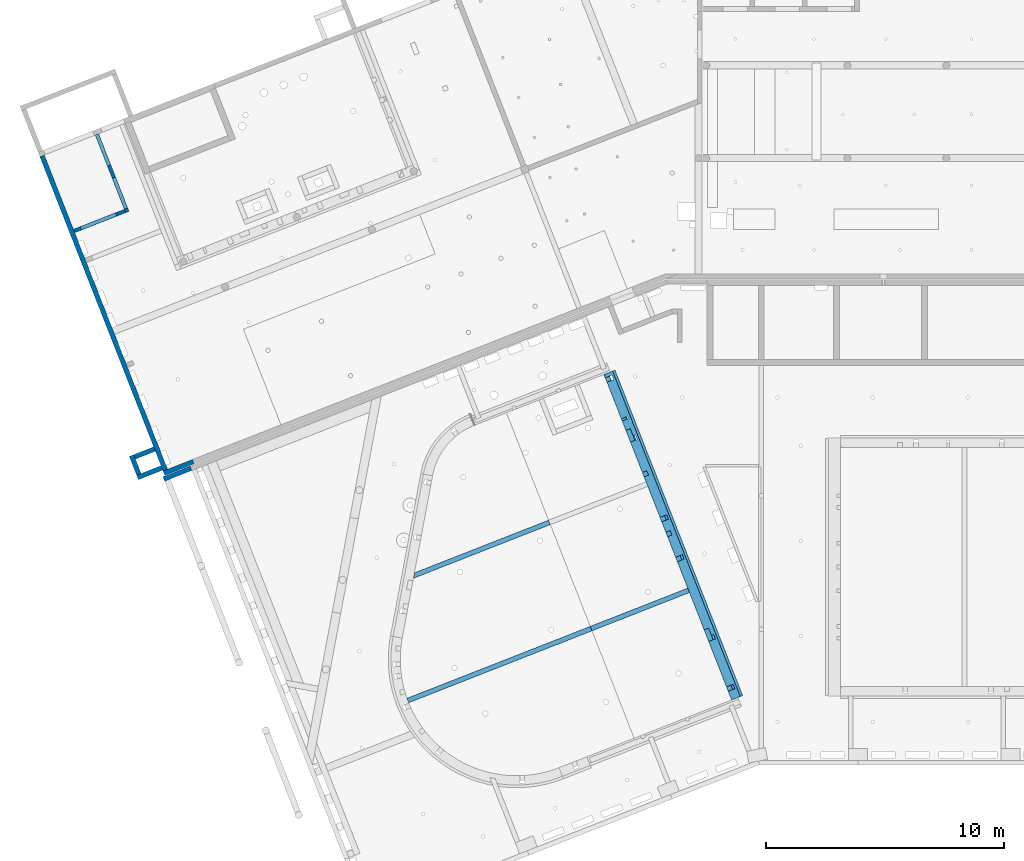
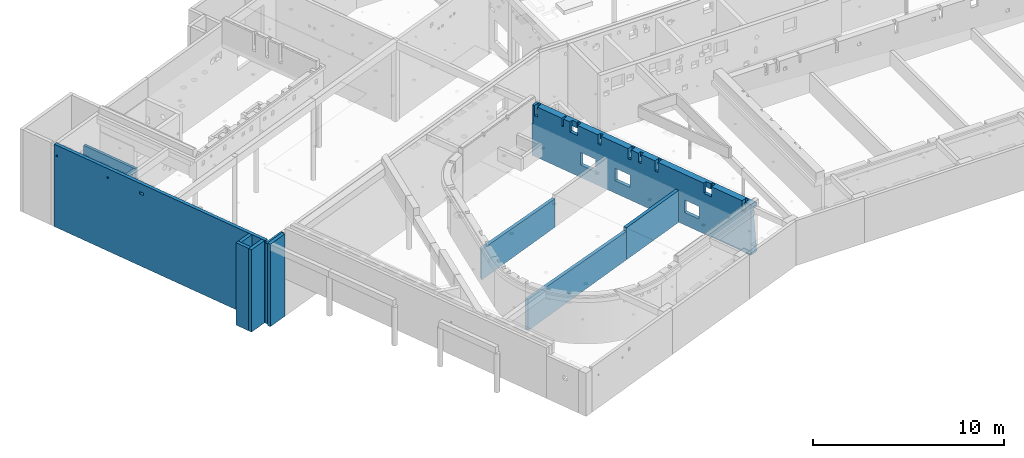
# One storey, part 16 of 28: 12 walls, 24 openings.
"""IFC2X3 building model written with IfcOpenShell, lengths in metres."""

import ifcopenshell
import ifcopenshell.guid

model = None  # the IFC model being written
_history = None  # IfcOwnerHistory: only IFC2X3 demands one
_inside = {}  # id of a spatial element -> (the spatial element, [elements in it])
_under = {}  # id of a project, library or spatial element -> (it, [spatial elements below it])
_declared = {}  # id of a project -> (the project, [libraries it declares])
_typed = {}  # id of a type object -> (the type object, [elements of that type])
_made_of = {}  # id of a material, layer set ... -> (it, [elements and type objects made of it])


def new_model(schema):
    """Start an empty IFC model of exactly this schema.

    Asked for "IFC4X3", IfcOpenShell would pick the latest addendum, in which some entities
    have other attributes; the version numbers below select the first issue.
    IFC2X3 requires an IfcOwnerHistory on every rooted entity: one is made here for all.
    """
    global model, _history
    if schema == "IFC4X3":
        model = ifcopenshell.file(schema_version=(4, 3, 0, 0))
    else:
        model = ifcopenshell.file(schema=schema)
    _inside.clear()
    _under.clear()
    _declared.clear()
    _typed.clear()
    _made_of.clear()
    _history = None
    if model.schema == "IFC2X3":
        org = make("IfcOrganization", Name="unknown")
        user = make(
            "IfcPersonAndOrganization",
            ThePerson=make("IfcPerson", FamilyName="unknown"),
            TheOrganization=org,
        )
        app = make(
            "IfcApplication",
            ApplicationDeveloper=org,
            Version="unknown",
            ApplicationFullName="unknown",
            ApplicationIdentifier="unknown",
        )
        _history = make(
            "IfcOwnerHistory",
            OwningUser=user,
            OwningApplication=app,
            ChangeAction="ADDED",
            CreationDate=0,
        )
    return model


def make(cls, **values):
    """One entity of the class cls with the attributes given. An attribute that is None is left unset."""
    return model.create_entity(
        cls, **{name: value for name, value in values.items() if value is not None}
    )


def entity(cls, *values):
    """Any entity or typed value of the class cls, its attributes in the order of the schema. None: left unset."""
    e = model.create_entity(cls)
    for i, value in enumerate(values):
        if value is not None:
            e[i] = value
    return e


def rooted(cls, **values):
    """An entity with a GlobalId (a new one), such as an element, a storey or a relation."""
    return make(cls, GlobalId=ifcopenshell.guid.new(), OwnerHistory=_history, **values)


def si_unit(unit_type, name, prefix=None):
    """IfcSIUnit, for example si_unit("LENGTHUNIT", "METRE", prefix="MILLI")."""
    return make("IfcSIUnit", UnitType=unit_type, Prefix=prefix, Name=name)


def converted_unit(unit_type, name, factor, base, dimensions=None, offset=None):
    """IfcConversionBasedUnit, such as the inch: factor (a typed value) times the base unit."""
    return make(
        "IfcConversionBasedUnit"
        if offset is None
        else "IfcConversionBasedUnitWithOffset",
        ConversionOffset=offset,
        Dimensions=None
        if dimensions is None
        else entity("IfcDimensionalExponents", *dimensions),
        UnitType=unit_type,
        Name=name,
        ConversionFactor=make(
            "IfcMeasureWithUnit", ValueComponent=factor, UnitComponent=base
        ),
    )


def assignment(units):
    """IfcUnitAssignment: the units of a project."""
    return None if units is None else make("IfcUnitAssignment", Units=units)


def point(xyz):
    """IfcCartesianPoint."""
    return None if xyz is None else make("IfcCartesianPoint", Coordinates=xyz)


def direction(xyz):
    """IfcDirection."""
    return None if xyz is None else make("IfcDirection", DirectionRatios=xyz)


def frame(location, z_axis=None, x_axis=None):
    """IfcAxis2Placement3D, a coordinate frame: its origin and axes. An axis left out is left unset."""
    return make(
        "IfcAxis2Placement3D",
        Location=point(location),
        Axis=direction(z_axis),
        RefDirection=direction(x_axis),
    )


def frame_2d(location, x_axis=None):
    """IfcAxis2Placement2D, a coordinate frame in the plane: its origin and x axis."""
    return make(
        "IfcAxis2Placement2D", Location=point(location), RefDirection=direction(x_axis)
    )


def origin():
    """The frame at (0, 0, 0) with its axes left unset."""
    return frame((0.0, 0.0, 0.0))


def origin_with_axes():
    """The frame at (0, 0, 0) with the z axis (0, 0, 1) and the x axis (1, 0, 0) written out."""
    return frame((0.0, 0.0, 0.0), z_axis=(0.0, 0.0, 1.0), x_axis=(1.0, 0.0, 0.0))


def place(relative_to, where):
    """IfcLocalPlacement: puts the frame where relative to a parent placement (None: the world)."""
    return make(
        "IfcLocalPlacement", PlacementRelTo=relative_to, RelativePlacement=where
    )


def context(
    kind, dimensions, precision=None, world=None, true_north=None, identifier=None
):
    """IfcGeometricRepresentationContext, for example the 3D "Model" context."""
    return make(
        "IfcGeometricRepresentationContext",
        ContextIdentifier=identifier,
        ContextType=kind,
        CoordinateSpaceDimension=dimensions,
        Precision=precision,
        WorldCoordinateSystem=world,
        TrueNorth=true_north,
    )


def subcontext(parent, identifier, kind, view, scale=None):
    """IfcGeometricRepresentationSubContext, for example "Body" below "Model"."""
    return make(
        "IfcGeometricRepresentationSubContext",
        ContextIdentifier=identifier,
        ContextType=kind,
        ParentContext=parent,
        TargetScale=scale,
        TargetView=view,
    )


def project(units=None, contexts=None):
    """IfcProject with its units and contexts."""
    return rooted(
        "IfcProject",
        Name="project",
        RepresentationContexts=contexts,
        UnitsInContext=assignment(units),
    )


def spatial(cls, under=None, at=None, **own):
    """A site, building, storey or space (cls), placed at a placement, below another one or the project."""
    s = rooted(cls, ObjectPlacement=at, **own)
    if under is not None:
        _under.setdefault(under.id(), (under, []))[1].append(s)
    return s


def polyline(points):
    """IfcPolyline through the points."""
    return make("IfcPolyline", Points=[point(p) for p in points])


def profile(cls, at=None, kind="AREA", **sizes):
    """A parametric profile (cls). Its sizes go by their IFC names, for example OverallWidth=200.0."""
    return make(cls, ProfileType=kind, Position=at, **sizes)


def rectangle(**sizes):
    """IfcRectangleProfileDef."""
    return profile("IfcRectangleProfileDef", **sizes)


def outline(outer, holes=None, kind="AREA"):
    """IfcArbitraryClosedProfileDef: a profile drawn as a closed curve; with holes, ...WithVoids."""
    if holes is None:
        return make("IfcArbitraryClosedProfileDef", ProfileType=kind, OuterCurve=outer)
    return make(
        "IfcArbitraryProfileDefWithVoids",
        ProfileType=kind,
        OuterCurve=outer,
        InnerCurves=holes,
    )


def extrude(swept, where, along, depth):
    """IfcExtrudedAreaSolid: the profile swept, set in the frame where, extruded along a direction by depth."""
    return make(
        "IfcExtrudedAreaSolid",
        SweptArea=swept,
        Position=where,
        ExtrudedDirection=direction(along),
        Depth=depth,
    )


def clip(a, b, op="DIFFERENCE"):
    """IfcBooleanClippingResult: the solid a cut by the half space b."""
    return make(
        "IfcBooleanClippingResult", Operator=op, FirstOperand=a, SecondOperand=b
    )


def halfspace(plane, agree):
    """IfcHalfSpaceSolid: all space on one side of the plane z = 0 of the frame plane."""
    return make(
        "IfcHalfSpaceSolid",
        BaseSurface=make("IfcPlane", Position=plane),
        AgreementFlag=agree,
    )


def bounded_halfspace(plane, agree, where, boundary):
    """IfcPolygonalBoundedHalfSpace: a half space limited to a polygon's prism."""
    return make(
        "IfcPolygonalBoundedHalfSpace",
        BaseSurface=make("IfcPlane", Position=plane),
        AgreementFlag=agree,
        Position=where,
        PolygonalBoundary=boundary,
    )


def shape(context_of_items, identifier, shape_type, items):
    """IfcShapeRepresentation: the items that make up one representation, for example the "Body"."""
    return make(
        "IfcShapeRepresentation",
        ContextOfItems=context_of_items,
        RepresentationIdentifier=identifier,
        RepresentationType=shape_type,
        Items=items,
    )


def material(Name=None, Category=None):
    """IfcMaterial."""
    return make("IfcMaterial", Name=Name, Category=Category)


def layer(
    of_material, thickness, ventilated=None, Name=None, Category=None, Priority=None
):
    """IfcMaterialLayer: one layer of a wall or slab, of a material (None: an air gap)."""
    return make(
        "IfcMaterialLayer",
        Material=of_material,
        LayerThickness=thickness,
        IsVentilated=ventilated,
        Name=Name,
        Category=Category,
        Priority=Priority,
    )


def layer_set(layers, Name=None):
    """IfcMaterialLayerSet."""
    return make("IfcMaterialLayerSet", MaterialLayers=layers, LayerSetName=Name)


def layer_usage(for_layer_set, set_direction, sense, offset, extent=None):
    """IfcMaterialLayerSetUsage: how a layer set lies in its element."""
    return make(
        "IfcMaterialLayerSetUsage",
        ForLayerSet=for_layer_set,
        LayerSetDirection=set_direction,
        DirectionSense=sense,
        OffsetFromReferenceLine=offset,
        ReferenceExtent=extent,
    )


def made_of(thing, what):
    """Note that an element or type object is made of a material, layer set ...; save() writes the relation."""
    if what is not None:
        _made_of.setdefault(what.id(), (what, []))[1].append(thing)
    return thing


def element(
    cls,
    number,
    at=None,
    inside=None,
    cuts=None,
    type_object=None,
    material=None,
    context=None,
    identifier="Body",
    shape_type=None,
    held_by="IfcProductDefinitionShape",
    body=None,
    shapes=None,
    **own,
):
    """One element of the class cls, such as IfcWall. Its Tag is "e" and its number.

    at: its placement. inside: the storey or other place that contains it. cuts: it is an
    opening in that element (IfcRelVoidsElement). A single representation is given by context,
    identifier, shape_type and body (its items); several are given by shapes. held_by: the class
    of the entity that holds the representations. save() writes the other relations.
    """
    e = rooted(cls, Tag="e%d" % number, ObjectPlacement=at, **own)
    if body is not None:
        shapes = [shape(context, identifier, shape_type, body)]
    if shapes is not None:
        e.Representation = make(held_by, Representations=shapes)
    if inside is not None:
        _inside.setdefault(inside.id(), (inside, []))[1].append(e)
    if cuts is not None:
        rooted(
            "IfcRelVoidsElement", RelatingBuildingElement=cuts, RelatedOpeningElement=e
        )
    if type_object is not None:
        _typed.setdefault(type_object.id(), (type_object, []))[1].append(e)
    return made_of(e, material)


def aggregate(whole, parts):
    """IfcRelAggregates: a whole, such as a stair, and the parts it consists of."""
    return rooted("IfcRelAggregates", RelatingObject=whole, RelatedObjects=parts)


def save(model, path):
    """Write the relations noted so far, then the file.

    IfcRelAggregates (storeys below a building ...), IfcRelContainedInSpatialStructure (elements
    in a storey), IfcRelDefinesByType, IfcRelAssociatesMaterial and IfcRelDeclares: one each for
    every whole, place, type object, material and project.
    """
    for whole, parts in _under.values():
        aggregate(whole, parts)
    for where, things in _inside.values():
        rooted(
            "IfcRelContainedInSpatialStructure",
            RelatedElements=things,
            RelatingStructure=where,
        )
    for kind, things in _typed.values():
        rooted("IfcRelDefinesByType", RelatedObjects=things, RelatingType=kind)
    for what, things in _made_of.values():
        rooted("IfcRelAssociatesMaterial", RelatedObjects=things, RelatingMaterial=what)
    for by, libraries in _declared.values():
        rooted("IfcRelDeclares", RelatingContext=by, RelatedDefinitions=libraries)
    model.write(path)


model = new_model("IFC2X3")

# Units and contexts
model_context = context("Model", 3, precision=1e-05, world=origin(), true_north=direction((-0.407059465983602, -0.913401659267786)))
body_context = subcontext(model_context, "Body", "Model", "MODEL_VIEW")
ifc_project = project(units=[si_unit("LENGTHUNIT", "METRE"), si_unit("AREAUNIT", "SQUARE_METRE"), si_unit("VOLUMEUNIT", "CUBIC_METRE"), si_unit("MASSUNIT", "GRAM", prefix="KILO"), converted_unit("PLANEANGLEUNIT", "DEGREE", entity("IfcPlaneAngleMeasure", 0.0174532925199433), si_unit("PLANEANGLEUNIT", "RADIAN"), dimensions=[0, 0, 0, 0, 0, 0, 0])], contexts=[model_context])

# Site, buildings, storey
site_placement = place(None, origin())
site = spatial("IfcSite", under=ifc_project, at=site_placement, Name="Site", CompositionType="ELEMENT")
building_1_placement = place(site_placement, origin())
building_1 = spatial("IfcBuilding", under=site, at=building_1_placement, Name="Site", CompositionType="COMPLEX")
building_2_placement = place(building_1_placement, origin())
building_2 = spatial("IfcBuilding", under=building_1, at=building_2_placement, Name="Bâtiments", CompositionType="ELEMENT")
storey_placement = place(building_2_placement, frame((0.0, 0.0, -5.3)))
storey = spatial("IfcBuildingStorey", under=building_2, at=storey_placement, Name="SOUS-SOL", CompositionType="ELEMENT", Elevation=-5.3)

# Walls
ifc_material_1 = material(Name="Béton")
ifc_layer_1 = layer(ifc_material_1, 0.200000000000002)
ifc_layer_set_1 = layer_set([ifc_layer_1])
ifc_layer_usage_1 = layer_usage(ifc_layer_set_1, "AXIS2", "POSITIVE", 0.0)
wall_1_placement = place(storey_placement, frame((5.12771264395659, -13.0690667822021, 0.0), z_axis=(0.0, 0.0, 1.0), x_axis=(-0.930909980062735, -0.365248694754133, 0.0)))
element("IfcWallStandardCase", 1, at=wall_1_placement, inside=storey, material=ifc_layer_usage_1, context=body_context, shape_type="SweptSolid", body=[
    extrude(rectangle(XDim=1.1, YDim=0.200000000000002, at=frame_2d((0.550000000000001, 0.100000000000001), x_axis=(1.0, 0.0))), origin_with_axes(), (0.0, 0.0, 1.0), 5.28),
])
ifc_material_2 = material(Name="Béton")
ifc_layer_2 = layer(ifc_material_2, 0.200000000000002)
ifc_layer_set_2 = layer_set([ifc_layer_2])
ifc_layer_usage_2 = layer_usage(ifc_layer_set_2, "AXIS2", "POSITIVE", 0.0)
wall_2_placement = place(storey_placement, frame((4.28989366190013, -13.3977906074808, 0.0), z_axis=(0.0, 0.0, 1.0), x_axis=(-0.365248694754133, 0.930909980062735, 0.0)))
element("IfcWallStandardCase", 2, at=wall_2_placement, inside=storey, material=ifc_layer_usage_2, context=body_context, shape_type="SweptSolid", body=[
    extrude(rectangle(XDim=0.850000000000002, YDim=0.200000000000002, at=frame_2d((0.425000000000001, 0.100000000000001), x_axis=(1.0, 0.0))), origin_with_axes(), (0.0, 0.0, 1.0), 5.28),
])
ifc_material_3 = material(Name="Béton")
ifc_layer_3 = layer(ifc_material_3, 0.200000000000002)
ifc_layer_set_3 = layer_set([ifc_layer_3])
ifc_layer_usage_3 = layer_usage(ifc_layer_set_3, "AXIS2", "POSITIVE", 0.0)
wall_3_placement = place(storey_placement, frame((4.05248201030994, -12.79269912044, 0.0), z_axis=(0.0, 0.0, 1.0), x_axis=(0.930909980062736, 0.365248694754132, 0.0)))
element("IfcWallStandardCase", 3, at=wall_3_placement, inside=storey, material=ifc_layer_usage_3, context=body_context, shape_type="SweptSolid", body=[
    extrude(rectangle(XDim=0.9, YDim=0.200000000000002, at=frame_2d((0.45, 0.100000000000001), x_axis=(1.0, 0.0))), origin_with_axes(), (0.0, 0.0, 1.0), 5.28),
])
ifc_material_4 = material(Name="Béton")
ifc_layer_4 = layer(ifc_material_4, 0.199999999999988)
ifc_layer_set_4 = layer_set([ifc_layer_4])
ifc_layer_usage_4 = layer_usage(ifc_layer_set_4, "AXIS2", "POSITIVE", 0.0)
wall_4_placement = place(storey_placement, frame((5.28899152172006, -13.4801240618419, 0.0), z_axis=(0.0, 0.0, 1.0), x_axis=(0.93090998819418, 0.365248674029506, 0.0)))
element("IfcWallStandardCase", 4, at=wall_4_placement, inside=storey, material=ifc_layer_usage_4, context=body_context, shape_type="SweptSolid", body=[
    extrude(outline(polyline([(0.0680024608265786, -0.0266812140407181), (1.39345425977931, -0.0266812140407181), (1.39345425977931, 0.17331878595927), (0.0680027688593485, 0.173318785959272), (0.0680024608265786, -0.0266812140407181)])), frame((-0.0680024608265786, 0.0266812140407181, 0.0), z_axis=(0.0, 0.0, 1.0), x_axis=(1.0, 0.0, 0.0)), (0.0, 0.0, 1.0), 5.16),
])
ifc_material_5 = material(Name="Béton")
ifc_layer_5 = layer(ifc_material_5, 0.199999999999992)
ifc_layer_set_5 = layer_set([ifc_layer_5])
ifc_layer_usage_5 = layer_usage(ifc_layer_set_5, "AXIS2", "POSITIVE", -0.199999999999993)
wall_5_placement = place(storey_placement, frame((5.28013879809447, -13.7199267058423, 0.0), z_axis=(0.0, 0.0, 1.0), x_axis=(0.930909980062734, 0.365248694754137, 0.0)))
element("IfcWallStandardCase", 5, at=wall_5_placement, inside=storey, material=ifc_layer_usage_5, context=body_context, shape_type="SweptSolid", body=[
    extrude(rectangle(XDim=1.22983274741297, YDim=0.199999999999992, at=frame_2d((0.614916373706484, 0.0999999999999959), x_axis=(1.0, 0.0))), origin_with_axes(), (0.0, 0.0, 1.0), 5.28),
])

# Wall, openings
ifc_material_6 = material(Name="Béton")
ifc_layer_6 = layer(ifc_material_6, 0.200000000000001)
ifc_layer_set_6 = layer_set([ifc_layer_6])
ifc_layer_usage_6 = layer_usage(ifc_layer_set_6, "AXIS2", "POSITIVE", 0.0)
wall_6_placement = place(storey_placement, frame((0.0365246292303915, -0.0930910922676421, 0.0), z_axis=(0.0, 0.0, 1.0), x_axis=(0.365247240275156, -0.930910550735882, 0.0)))
wall_6 = element("IfcWallStandardCase", 6, at=wall_6_placement, inside=storey, material=ifc_layer_usage_6, context=body_context, shape_type="SweptSolid", body=[
    extrude(outline(polyline([(-12.2888113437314, 4.8215743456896), (0.80020370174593, 4.8215743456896), (1.00020370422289, 4.82157434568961), (1.65020370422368, 4.82157434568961), (1.65020370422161, 4.82157567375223), (1.85020370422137, 4.82157598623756), (1.85020370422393, 4.82157434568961), (1.89176792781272, 4.82157434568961), (1.89176761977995, 5.02157434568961), (-2.70203229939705, 5.02157434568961), (-2.70203229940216, 5.02156932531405), (-2.90203229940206, 5.0215695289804), (-2.90203229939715, 5.02157434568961), (-7.35880905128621, 5.02157434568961), (-8.10439744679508, 5.0215743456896), (-12.138811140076, 5.0215743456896), (-12.2888113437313, 5.0215743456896), (-12.2888113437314, 4.8215743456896)])), frame((12.2888113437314, -4.8215743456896, 0.0), z_axis=(0.0, 0.0, 1.0), x_axis=(1.0, 0.0, 0.0)), (0.0, 0.0, 1.0), 5.28),
])
opening_1_placement = place(wall_6_placement, frame((12.6838910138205, 0.200000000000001, 3.93), z_axis=(-9.09494701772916e-15, -1.0, 0.0), x_axis=(0.0, 0.0, 1.0)))
element("IfcOpeningElement", 7, at=opening_1_placement, cuts=wall_6, Name="PB-097", ObjectType="Opening", context=body_context, shape_type="SweptSolid", body=[
    extrude(outline(polyline([(0.0, 0.349999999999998), (0.35, 0.349999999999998), (0.35, 0.0), (0.0, 0.0), (0.0, 0.349999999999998)])), origin_with_axes(), (0.0, 0.0, 1.0), 0.200000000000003),
])
opening_2_placement = place(wall_6_placement, frame((5.99824083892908, 0.200000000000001, 4.6), z_axis=(0.0, -1.0, 0.0), x_axis=(0.0, 0.0, 1.0)))
element("IfcOpeningElement", 8, at=opening_2_placement, cuts=wall_6, Name="PB-066", ObjectType="Opening", context=body_context, shape_type="SweptSolid", body=[
    extrude(outline(polyline([(0.0, 0.250000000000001), (0.15, 0.250000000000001), (0.15, 0.0), (0.0, 0.0), (0.0, 0.250000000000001)])), origin_with_axes(), (0.0, 0.0, 1.0), 0.200000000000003),
])
opening_3_placement = place(wall_6_placement, frame((0.135546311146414, -4.2632564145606e-17, 4.56), z_axis=(5.68434188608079e-16, 1.0, 0.0), x_axis=(0.0, 0.0, 1.0)))
element("IfcOpeningElement", 9, at=opening_3_placement, cuts=wall_6, Name="PB-041", ObjectType="Opening", context=body_context, shape_type="SweptSolid", body=[
    extrude(outline(polyline([(0.0, 0.1), (0.1, 0.1), (0.1, 0.0), (0.0, 0.0), (0.0, 0.1)])), origin_with_axes(), (0.0, 0.0, 1.0), 0.2),
])
opening_4_placement = place(wall_6_placement, frame((3.56318724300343, 4.14956957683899e-13, 4.65), z_axis=(0.0, 0.0, 1.0), x_axis=(0.999999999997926, -2.03666327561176e-06, 0.0)))
element("IfcOpeningElement", 10, at=opening_4_placement, cuts=wall_6, Name="TE-085", ObjectType="Opening", context=body_context, shape_type="SweptSolid", body=[
    extrude(outline(polyline([(2.5461124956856e-07, 8.41642565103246e-17), (0.100000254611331, -7.105427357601e-18), (0.100000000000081, 0.200000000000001), (5.6843418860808e-17, 0.200000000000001), (2.5461124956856e-07, 8.41642565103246e-17)])), origin_with_axes(), (0.0, 0.0, 1.0), 0.1),
])

# Wall
ifc_material_7 = material(Name="Béton")
ifc_layer_7 = layer(ifc_material_7, 0.199999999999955)
ifc_layer_set_7 = layer_set([ifc_layer_7])
ifc_layer_usage_7 = layer_usage(ifc_layer_set_7, "AXIS2", "POSITIVE", -0.199999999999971)
wall_7_placement = place(storey_placement, frame((27.256604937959, -18.2136269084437, 1.81), z_axis=(0.0, 0.0, 1.0), x_axis=(-0.93091019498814, -0.365248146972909, 0.0)))
element("IfcWallStandardCase", 11, at=wall_7_placement, inside=storey, material=ifc_layer_usage_7, context=body_context, shape_type="SweptSolid", body=[
    extrude(outline(polyline([(-4.46802616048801, -0.173318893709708), (-0.0680026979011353, -0.173318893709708), (-0.0680022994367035, 0.0266811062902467), (-4.46802627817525, 0.0266811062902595), (-4.46802616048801, -0.173318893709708)])), frame((4.46802616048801, 0.173318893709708, 0.0), z_axis=(0.0, 0.0, 1.0), x_axis=(1.0, 0.0, 0.0)), (0.0, 0.0, 1.0), 2.05),
])

# Wall, openings
ifc_material_8 = material(Name="Béton")
ifc_layer_8 = layer(ifc_material_8, 0.2)
ifc_material_9 = material(Name="Béton")
ifc_layer_9 = layer(ifc_material_9, 0.189999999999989)
ifc_material_10 = material(Name="Béton")
ifc_layer_10 = layer(ifc_material_10, 0.110000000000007)
ifc_layer_set_8 = layer_set([ifc_layer_8, ifc_layer_9, ifc_layer_10])
ifc_layer_usage_8 = layer_usage(ifc_layer_set_8, "AXIS2", "POSITIVE", 0.0)
wall_8_placement = place(storey_placement, frame((23.7346608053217, -9.23724180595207, 1.81), z_axis=(0.0, 0.0, 1.0), x_axis=(0.365248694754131, -0.930909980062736, 0.0)))
wall_8 = element("IfcWallStandardCase", 12, at=wall_8_placement, inside=storey, material=ifc_layer_usage_8, context=body_context, shape_type="Clipping", body=[
    clip(clip(extrude(outline(polyline([(-12.7299259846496, 4.99467075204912), (1.95969214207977, 4.99467075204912), (1.95969352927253, 5.19467075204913), (1.95969411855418, 5.19467075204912), (1.95969411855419, 5.49467075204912), (-12.7299256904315, 5.49467075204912), (-12.7299259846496, 4.99467075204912)])), frame((12.7299259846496, -4.99467075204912, 0.0), z_axis=(0.0, 0.0, 1.0), x_axis=(1.0, 0.0, 0.0)), (0.0, 0.0, 1.0), 3.24), bounded_halfspace(frame((7.34481000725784, 0.350000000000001, 2.88), z_axis=(7.73926356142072e-18, 3.78956115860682e-16, 1.0), x_axis=(1.0, 3.33066907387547e-16, -1.54785273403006e-17)), True, origin_with_axes(), polyline([(1.17687249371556e-07, 0.199999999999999), (14.6896195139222, 0.200000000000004), (14.6896201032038, 0.500000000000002), (2.94218114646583e-07, 0.499999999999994), (1.17687249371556e-07, 0.199999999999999)]))), bounded_halfspace(frame((7.34481018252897, 0.444999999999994, 3.14), z_axis=(0.0, 0.0, -1.0), x_axis=(1.0, -3.33066907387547e-16, 0.0)), True, origin_with_axes(), polyline([(2.29490127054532e-07, 0.389999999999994), (14.6896201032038, 0.389999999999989), (14.6896201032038, 0.500000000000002), (2.94218114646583e-07, 0.499999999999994), (2.29490127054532e-07, 0.389999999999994)]))),
])
opening_5_placement = place(wall_8_placement, frame((1.99961807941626, 6.82121026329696e-15, 2.74), z_axis=(3.41060513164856e-15, 1.0, 0.0), x_axis=(0.0, 0.0, 1.0)))
element("IfcOpeningElement", 13, at=opening_5_placement, cuts=wall_8, Name="Percement dans mur", ObjectType="Opening", context=body_context, shape_type="SweptSolid", body=[
    extrude(outline(polyline([(0.0, 0.1), (0.5, 0.1), (0.5, 0.0), (0.0, 0.0), (0.0, 0.1)])), origin_with_axes(), (0.0, 0.0, 1.0), 0.199999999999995),
    extrude(outline(polyline([(0.0, 0.1), (0.5, 0.1), (0.5, 0.0), (0.0, 0.0), (0.0, 0.1)])), frame((0.0, 0.0, 0.199999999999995), z_axis=(0.0, 0.0, 1.0), x_axis=(1.0, 0.0, 0.0)), (0.0, 0.0, 1.0), 0.0800000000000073),
])
opening_6_placement = place(wall_8_placement, frame((2.52461807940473, -2.04636307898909e-15, 2.59), z_axis=(-1.36424205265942e-14, 1.0, 0.0), x_axis=(0.0, 0.0, 1.0)))
element("IfcOpeningElement", 14, at=opening_6_placement, cuts=wall_8, Name="Percement dans mur", ObjectType="Opening", context=body_context, shape_type="SweptSolid", body=[
    extrude(outline(polyline([(0.0, 0.4), (0.65, 0.4), (0.65, 0.0), (0.0, 0.0), (0.0, 0.4)])), origin_with_axes(), (0.0, 0.0, 1.0), 0.199999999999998),
])
opening_7_placement = place(wall_8_placement, frame((2.84961807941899, 1.18234311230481e-14, 2.59), z_axis=(1.36424205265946e-14, 1.0, 0.0), x_axis=(0.0, 0.0, 1.0)))
element("IfcOpeningElement", 15, at=opening_7_placement, cuts=wall_8, Name="Percement dans mur", ObjectType="Opening", context=body_context, shape_type="SweptSolid", body=[
    extrude(outline(polyline([(0.0, 0.2), (0.65, 0.2), (0.65, 0.0), (0.0, 0.0), (0.0, 0.2)])), origin_with_axes(), (0.0, 0.0, 1.0), 0.199999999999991),
    extrude(outline(polyline([(0.0, 0.199999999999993), (0.65, 0.199999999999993), (0.65, 0.0), (0.0, 0.0), (0.0, 0.199999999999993)])), frame((0.0, -1.20934373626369e-14, 0.199999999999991), z_axis=(0.0, 0.0, 1.0), x_axis=(1.0, 0.0, 0.0)), (0.0, 0.0, 1.0), 0.0999999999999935),
])
opening_8_placement = place(wall_8_placement, frame((4.42461807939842, 9.09494701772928e-16, 2.65), z_axis=(9.09494701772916e-15, 1.0, 0.0), x_axis=(0.0, 0.0, 1.0)))
element("IfcOpeningElement", 16, at=opening_8_placement, cuts=wall_8, Name="Percement dans mur", ObjectType="Opening", context=body_context, shape_type="SweptSolid", body=[
    extrude(outline(polyline([(0.0, 0.199999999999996), (0.59, 0.199999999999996), (0.59, 0.0), (0.0, 0.0), (0.0, 0.199999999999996)])), origin_with_axes(), (0.0, 0.0, 1.0), 0.200000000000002),
])
opening_9_placement = place(wall_8_placement, frame((7.12461807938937, 4.54747350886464e-15, 2.65), z_axis=(9.09494701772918e-15, 1.0, 0.0), x_axis=(0.0, 0.0, 1.0)))
element("IfcOpeningElement", 17, at=opening_9_placement, cuts=wall_8, Name="Percement dans mur", ObjectType="Opening", context=body_context, shape_type="SweptSolid", body=[
    extrude(outline(polyline([(0.0, 0.199999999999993), (0.59, 0.199999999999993), (0.59, 0.0), (0.0, 0.0), (0.0, 0.199999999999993)])), origin_with_axes(), (0.0, 0.0, 1.0), 0.200000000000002),
])
opening_10_placement = place(wall_8_placement, frame((11.849618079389, -3.91082721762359e-14, 2.59), z_axis=(9.09494701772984e-15, 1.0, 0.0), x_axis=(0.0, 0.0, 1.0)))
element("IfcOpeningElement", 18, at=opening_10_placement, cuts=wall_8, Name="Percement dans mur", ObjectType="Opening", context=body_context, shape_type="SweptSolid", body=[
    extrude(outline(polyline([(0.0, 0.2), (0.65, 0.2), (0.65, 0.0), (0.0, 0.0), (0.0, 0.2)])), origin_with_axes(), (0.0, 0.0, 1.0), 0.199999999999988),
    extrude(outline(polyline([(0.0, 0.199999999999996), (0.65, 0.199999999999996), (0.65, 0.0), (0.0, 0.0), (0.0, 0.199999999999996)])), frame((0.0, -2.65742983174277e-15, 0.199999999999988), z_axis=(0.0, 0.0, 1.0), x_axis=(1.0, 0.0, 0.0)), (0.0, 0.0, 1.0), 0.0999999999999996),
])
opening_11_placement = place(wall_8_placement, frame((11.5246180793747, -5.00222085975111e-14, 2.59), z_axis=(0.0, 1.0, 0.0), x_axis=(0.0, 0.0, 1.0)))
element("IfcOpeningElement", 19, at=opening_11_placement, cuts=wall_8, Name="Percement dans mur", ObjectType="Opening", context=body_context, shape_type="SweptSolid", body=[
    extrude(outline(polyline([(0.0, 0.4), (0.65, 0.4), (0.65, 0.0), (0.0, 0.0), (0.0, 0.4)])), origin_with_axes(), (0.0, 0.0, 1.0), 0.199999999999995),
])
opening_12_placement = place(wall_8_placement, frame((8.24961807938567, -4.86579665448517e-14, 2.59), z_axis=(9.09494701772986e-15, 1.0, 0.0), x_axis=(0.0, 0.0, 1.0)))
element("IfcOpeningElement", 20, at=opening_12_placement, cuts=wall_8, Name="Percement dans mur", ObjectType="Opening", context=body_context, shape_type="SweptSolid", body=[
    extrude(outline(polyline([(0.0, 0.199999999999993), (0.65, 0.199999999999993), (0.65, 0.0), (0.0, 0.0), (0.0, 0.199999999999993)])), origin_with_axes(), (0.0, 0.0, 1.0), 0.199999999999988),
    extrude(outline(polyline([(0.0, 0.199999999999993), (0.65, 0.199999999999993), (0.65, 0.0), (0.0, 0.0), (0.0, 0.199999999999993)])), frame((0.0, -2.65742983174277e-15, 0.199999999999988), z_axis=(0.0, 0.0, 1.0), x_axis=(1.0, 0.0, 0.0)), (0.0, 0.0, 1.0), 0.0999999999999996),
])
opening_13_placement = place(wall_8_placement, frame((0.149236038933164, 3.49587025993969e-15, 2.59), z_axis=(4.40536496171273e-15, 1.0, 0.0), x_axis=(0.0, 0.0, 1.0)))
element("IfcOpeningElement", 21, at=opening_13_placement, cuts=wall_8, Name="Percement dans mur", ObjectType="Opening", context=body_context, shape_type="SweptSolid", body=[
    extrude(outline(polyline([(0.0, 0.199999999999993), (0.65, 0.199999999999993), (0.65, 0.0), (0.0, 0.0), (0.0, 0.199999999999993)])), origin_with_axes(), (0.0, 0.0, 1.0), 0.199999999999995),
    extrude(outline(polyline([(0.0, 0.199999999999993), (0.65, 0.199999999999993), (0.65, 0.0), (0.0, 0.0), (0.0, 0.199999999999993)])), frame((0.0, 0.0, 0.199999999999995), z_axis=(0.0, 0.0, 1.0), x_axis=(1.0, 0.0, 0.0)), (0.0, 0.0, 1.0), 0.100000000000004),
])
opening_14_placement = place(wall_8_placement, frame((14.0996180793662, -3.36513039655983e-14, 2.59), z_axis=(9.0949470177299e-15, 1.0, 0.0), x_axis=(0.0, 0.0, 1.0)))
element("IfcOpeningElement", 22, at=opening_14_placement, cuts=wall_8, Name="Percement dans mur", ObjectType="Opening", context=body_context, shape_type="SweptSolid", body=[
    extrude(outline(polyline([(0.0, 0.199999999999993), (0.65, 0.199999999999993), (0.65, 0.0), (0.0, 0.0), (0.0, 0.199999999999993)])), origin_with_axes(), (0.0, 0.0, 1.0), 0.199999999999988),
    extrude(outline(polyline([(0.0, 0.199999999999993), (0.65, 0.199999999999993), (0.65, 0.0), (0.0, 0.0), (0.0, 0.199999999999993)])), frame((0.0, -2.65742983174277e-15, 0.199999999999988), z_axis=(0.0, 0.0, 1.0), x_axis=(1.0, 0.0, 0.0)), (0.0, 0.0, 1.0), 0.0999999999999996),
])
opening_15_placement = place(wall_8_placement, frame((1.40521446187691e-13, -4.22781487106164e-16, 2.05), z_axis=(4.38612395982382e-15, 1.0, 0.0), x_axis=(0.0, 0.0, 1.0)))
element("IfcOpeningElement", 23, at=opening_15_placement, cuts=wall_8, Name="Percement dans mur", ObjectType="Opening", context=body_context, shape_type="SweptSolid", body=[
    extrude(outline(polyline([(0.0, 0.0499999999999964), (1.19, 0.0499999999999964), (1.19, 0.0), (0.0, 0.0), (0.0, 0.0499999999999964)])), origin_with_axes(), (0.0, 0.0, 1.0), 0.0499999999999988),
])
opening_16_placement = place(wall_8_placement, frame((3.25855583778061, -1.81898940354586e-15, 0.8), z_axis=(-2.27373675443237e-15, 1.0, 0.0), x_axis=(0.0, 0.0, 1.0)))
element("IfcOpeningElement", 24, at=opening_16_placement, cuts=wall_8, Name="Accès VS", ObjectType="Opening", context=body_context, shape_type="SweptSolid", body=[
    extrude(outline(polyline([(0.0, 1.0), (0.8, 1.0), (0.8, 0.0), (0.0, 0.0), (0.0, 1.0)])), origin_with_axes(), (0.0, 0.0, 1.0), 0.199999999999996),
])
opening_17_placement = place(wall_8_placement, frame((5.57867912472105, -3.11871213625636e-07, 0.8), z_axis=(-4.54747350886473e-15, 1.0, 0.0), x_axis=(0.0, 0.0, 1.0)))
element("IfcOpeningElement", 25, at=opening_17_placement, cuts=wall_8, Name="Accès VS", ObjectType="Opening", context=body_context, shape_type="SweptSolid", body=[
    extrude(outline(polyline([(0.0, 1.0), (0.8, 1.0), (0.8, 0.0), (0.0, 0.0), (0.0, 1.0)])), origin_with_axes(), (0.0, 0.0, 1.0), 0.199999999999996),
])
opening_18_placement = place(wall_8_placement, frame((6.44961807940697, 1.31876731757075e-14, 2.59), z_axis=(4.54747350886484e-15, 1.0, 0.0), x_axis=(0.0, 0.0, 1.0)))
element("IfcOpeningElement", 26, at=opening_18_placement, cuts=wall_8, Name="Percement dans mur", ObjectType="Opening", context=body_context, shape_type="SweptSolid", body=[
    extrude(outline(polyline([(0.0, 0.199999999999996), (0.65, 0.199999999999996), (0.65, 0.0), (0.0, 0.0), (0.0, 0.199999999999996)])), origin_with_axes(), (0.0, 0.0, 1.0), 0.199999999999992),
    extrude(outline(polyline([(0.0, 0.199999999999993), (0.65, 0.199999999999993), (0.65, 0.0), (0.0, 0.0), (0.0, 0.199999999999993)])), frame((0.0, 0.0, 0.199999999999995), z_axis=(0.0, 0.0, 1.0), x_axis=(1.0, 0.0, 0.0)), (0.0, 0.0, 1.0), 0.100000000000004),
])
opening_19_placement = place(wall_8_placement, frame((10.2186791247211, -3.11871205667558e-07, 0.8), z_axis=(0.0, 1.0, 0.0), x_axis=(0.0, 0.0, 1.0)))
element("IfcOpeningElement", 27, at=opening_19_placement, cuts=wall_8, Name="Accès VS", ObjectType="Opening", context=body_context, shape_type="SweptSolid", body=[
    extrude(outline(polyline([(0.0, 1.0), (0.8, 1.0), (0.8, 0.0), (0.0, 0.0), (0.0, 1.0)])), origin_with_axes(), (0.0, 0.0, 1.0), 0.199999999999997),
])

ifc_material_11 = material(Name="Mur_Maconnerie")
ifc_layer_11 = layer(ifc_material_11, 0.15)
ifc_layer_set_9 = layer_set([ifc_layer_11])
ifc_layer_usage_9 = layer_usage(ifc_layer_set_9, "AXIS2", "POSITIVE", -0.075)
wall_9_placement = place(storey_placement, frame((3.5873817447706, -2.29852734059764, 0.5), z_axis=(0.0, 0.0, 1.0), x_axis=(-0.930910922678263, -0.365246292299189, 0.0)))
wall_9 = element("IfcWallStandardCase", 28, at=wall_9_placement, inside=storey, material=ifc_layer_usage_9, context=body_context, shape_type="SweptSolid", body=[
    extrude(outline(polyline([(-2.35100259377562, -0.129989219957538), (-0.0510017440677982, -0.129989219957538), (-0.0510018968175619, 0.0200107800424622), (-2.35100259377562, 0.0200107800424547), (-2.35100259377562, -0.129989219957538)])), frame((2.35100259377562, 0.129989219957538, 0.0), z_axis=(0.0, 0.0, 1.0), x_axis=(1.0, 0.0, 0.0)), (0.0, 0.0, 1.0), 3.33),
])
opening_20_placement = place(wall_9_placement, frame((0.614813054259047, 0.149999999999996, 4.05), z_axis=(2.2737367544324e-15, -1.0, 0.0), x_axis=(0.0, 0.0, 1.0)))
element("IfcOpeningElement", 29, at=opening_20_placement, cuts=wall_9, Name="PB-055", ObjectType="Opening", context=body_context, shape_type="SweptSolid", body=[
    extrude(outline(polyline([(0.0, 0.2), (0.2, 0.2), (0.2, 0.0), (0.0, 0.0), (0.0, 0.2)])), origin_with_axes(), (0.0, 0.0, 1.0), 0.149999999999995),
])
opening_21_placement = place(wall_9_placement, frame((1.0419546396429, 0.150000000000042, 2.33), z_axis=(6.06329801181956e-15, -1.0, 0.0), x_axis=(0.0, 0.0, 1.0)))
element("IfcOpeningElement", 30, at=opening_21_placement, cuts=wall_9, Name="CVC-024", ObjectType="Opening", context=body_context, shape_type="SweptSolid", body=[
    extrude(outline(polyline([(0.0, 0.95), (0.85, 0.95), (0.85, 0.0), (0.0, 0.0), (0.0, 0.95)])), origin_with_axes(), (0.0, 0.0, 1.0), 0.149999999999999),
])
opening_22_placement = place(wall_9_placement, frame((1.99999951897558, 0.150000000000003, 0.05), z_axis=(6.06329801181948e-15, -1.0, 0.0), x_axis=(0.0, 0.0, 1.0)))
element("IfcOpeningElement", 31, at=opening_22_placement, cuts=wall_9, Name="CVC-025", ObjectType="Opening", context=body_context, shape_type="SweptSolid", body=[
    extrude(outline(polyline([(0.0, 1.6), (1.6, 1.6), (1.6, 0.0), (0.0, 0.0), (0.0, 1.6)])), origin_with_axes(), (0.0, 0.0, 1.0), 0.150000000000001),
])

ifc_material_12 = material(Name="Mur_Maconnerie")
ifc_layer_12 = layer(ifc_material_12, 0.14999999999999)
ifc_layer_set_10 = layer_set([ifc_layer_12])
ifc_layer_usage_10 = layer_usage(ifc_layer_set_10, "AXIS2", "POSITIVE", -0.075)
wall_10_placement = place(storey_placement, frame((2.36380590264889, 0.820026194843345, 0.5), z_axis=(0.0, 0.0, 1.0), x_axis=(0.365246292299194, -0.930910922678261, 0.0)))
wall_10 = element("IfcWallStandardCase", 32, at=wall_10_placement, inside=storey, material=ifc_layer_usage_10, context=body_context, shape_type="SweptSolid", body=[
    extrude(rectangle(XDim=3.50000208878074, YDim=0.14999999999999, at=frame_2d((1.75000104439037, 0.0749999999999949), x_axis=(1.0, 0.0))), origin_with_axes(), (0.0, 0.0, 1.0), 3.33),
])
opening_23_placement = place(wall_10_placement, frame((3.35000208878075, 0.149999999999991, 0.9), z_axis=(0.0, -1.0, 0.0), x_axis=(0.0, 0.0, 1.0)))
element("IfcOpeningElement", 33, at=opening_23_placement, cuts=wall_10, Name="CVC-023", ObjectType="Opening", context=body_context, shape_type="SweptSolid", body=[
    extrude(outline(polyline([(0.0, 1.4), (1.4, 1.4), (1.4, 0.0), (0.0, 0.0), (0.0, 1.4)])), origin_with_axes(), (0.0, 0.0, 1.0), 0.149999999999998),
])
opening_24_placement = place(wall_10_placement, frame((1.40000208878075, 0.15, 0.9), z_axis=(-1.51582450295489e-15, -1.0, 0.0), x_axis=(0.0, 0.0, 1.0)))
element("IfcOpeningElement", 34, at=opening_24_placement, cuts=wall_10, Name="CVC-022", ObjectType="Opening", context=body_context, shape_type="SweptSolid", body=[
    extrude(outline(polyline([(0.0, 1.4), (1.4, 1.4), (1.4, 0.0), (0.0, 0.0), (0.0, 1.4)])), origin_with_axes(), (0.0, 0.0, 1.0), 0.149999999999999),
])

# Walls
ifc_material_13 = material(Name="Béton")
ifc_layer_13 = layer(ifc_material_13, 0.199999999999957)
ifc_layer_set_11 = layer_set([ifc_layer_13])
ifc_layer_usage_11 = layer_usage(ifc_layer_set_11, "AXIS2", "POSITIVE", -0.199999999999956)
wall_11_placement = place(storey_placement, frame((21.4096189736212, -15.3580216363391, 1.81), z_axis=(0.0, 0.0, 1.0), x_axis=(-0.930910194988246, -0.365248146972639, 0.0)))
element("IfcWallStandardCase", 35, at=wall_11_placement, inside=storey, material=ifc_layer_usage_11, context=body_context, shape_type="Clipping", body=[
    clip(extrude(outline(polyline([(-6.17986382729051, -0.199999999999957), (-0.124975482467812, -0.199999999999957), (0.0, 0.0), (-6.17986382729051, -9.09494701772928e-16), (-6.17986382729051, -0.199999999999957)])), frame((6.17986382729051, 0.199999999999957, 0.0), z_axis=(0.0, 0.0, 1.0), x_axis=(1.0, 0.0, 0.0)), (0.0, 0.0, 1.0), 1.94359727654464), halfspace(frame((3.0586880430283, 0.0999999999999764, 1.88117376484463), z_axis=(0.0199960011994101, -3.98384708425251e-08, -0.99980005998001), x_axis=(0.999800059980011, 0.0, 0.0199960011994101)), True)),
])
ifc_material_14 = material(Name="Béton")
ifc_layer_14 = layer(ifc_material_14, 0.199999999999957)
ifc_layer_set_12 = layer_set([ifc_layer_14])
ifc_layer_usage_12 = layer_usage(ifc_layer_set_12, "AXIS2", "POSITIVE", -0.199999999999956)
wall_12_placement = place(storey_placement, frame((23.1605778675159, -19.8207274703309, 1.81), z_axis=(0.0, 0.0, 1.0), x_axis=(-0.930910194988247, -0.365248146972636, 0.0)))
element("IfcWallStandardCase", 36, at=wall_12_placement, inside=storey, material=ifc_layer_usage_12, context=body_context, shape_type="Clipping", body=[
    clip(extrude(rectangle(XDim=8.27499604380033, YDim=0.199999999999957, at=frame_2d((4.13749802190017, 0.0999999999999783), x_axis=(1.0, 0.0))), origin_with_axes(), (0.0, 0.0, 1.0), 3.12), bounded_halfspace(frame((4.96464817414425, 0.0866680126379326, 1.91929296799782), z_axis=(0.0199960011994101, -3.98384703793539e-08, -0.99980005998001), x_axis=(9.60342916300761e-15, 0.999999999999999, -3.98464375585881e-08)), True, origin_with_axes(), polyline([(8.27499604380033, 0.0333400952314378), (8.27499604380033, 0.199999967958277), (-2.64321897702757e-15, 0.199999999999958), (-3.38663156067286e-15, 1.32876501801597e-15), (8.27324878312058, 4.54747350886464e-16), (8.27499604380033, 0.0333400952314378)]))),
])

save(model, "model.ifc")
